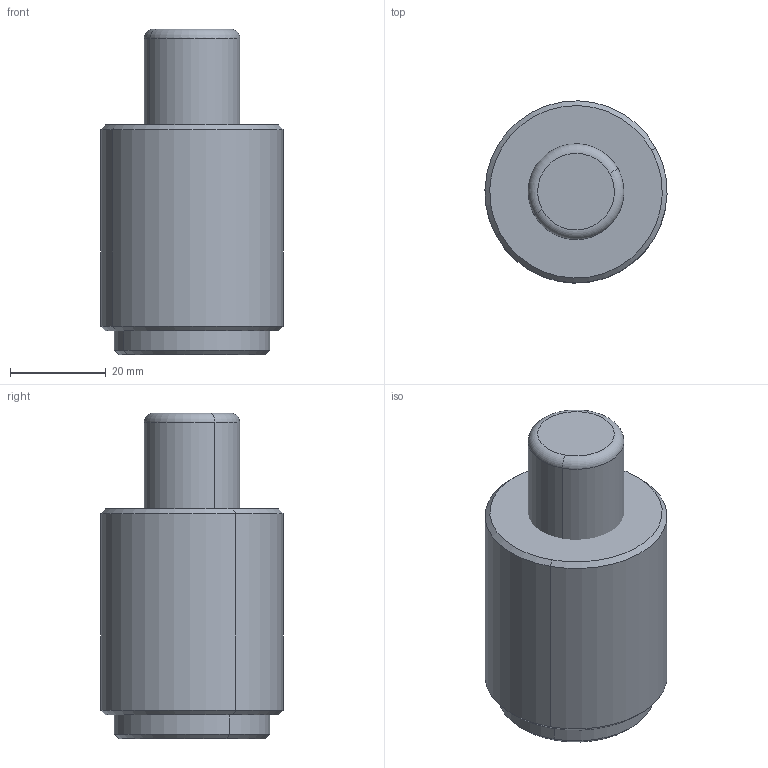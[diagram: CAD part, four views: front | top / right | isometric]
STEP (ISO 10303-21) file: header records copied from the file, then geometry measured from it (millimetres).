
FILE_DESCRIPTION(('CATIA V5 STEP Exchange'),'2;1');
FILE_NAME('W:\CATALOGO GENERAL 2018\FICHEROS CAD\011-TPR\TPR 38.1\TPR 38x19.1.stp','2017-12-04T14:50:47+00:00',('none'),('none'),'CATIA Version 5 Release 17 (IN-10)','CATIA V5 STEP AP203','none');
FILE_SCHEMA(('CONFIG_CONTROL_DESIGN'));
Length unit declared in the file: millimetre
Products named in the file (1): TPR 38x19.1
Assembly tree (2 placements, depth 2):
  TPR 38x19.1
    #56
    #385
Bounding box: 37.99 x 37.99 x 68 mm (x, y, z)
Volume: 65262.4 mm3; surface area: 10794.4 mm2
Topology: 2 solids, 2 shells, 19 faces, 34 edges, 20 vertices
Faces by surface type: cone 6, cylinder 6, plane 5, torus 2
Entity records: 550 total; most frequent: CARTESIAN_POINT 100, DIRECTION 79, ORIENTED_EDGE 68, AXIS2_PLACEMENT_3D 44, EDGE_CURVE 34, CIRCLE 21, EDGE_LOOP 20, VERTEX_POINT 20
